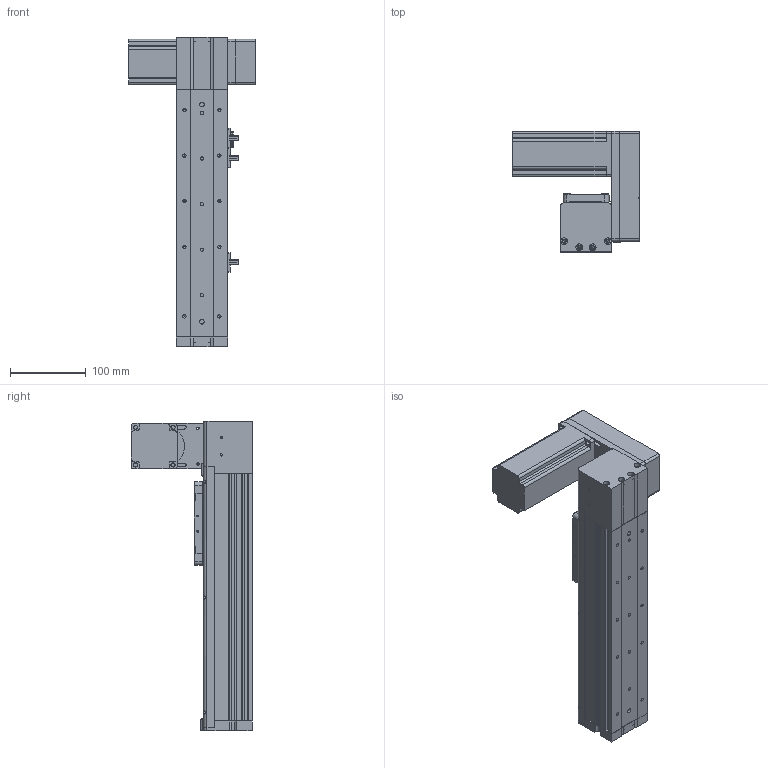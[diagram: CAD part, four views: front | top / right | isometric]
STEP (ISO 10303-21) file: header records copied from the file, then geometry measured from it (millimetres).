
FILE_DESCRIPTION (( 'STEP AP214' ), '1' );
FILE_NAME ('KSD68BS-S150-MLU-CR.STEP', '2019-11-07T07:09:11', ( '微软用户' ), ( '微软中国' ), 'SwSTEP 2.0', 'SolidWorks 2014', '' );
FILE_SCHEMA (( 'AUTOMOTIVE_DESIGN' ));
Length unit declared in the file: millimetre
Products named in the file (14): 感应片68宽全封闭; U倰嫖萇EEㄜSX672; 台达ECMA－C20604AS伺服电机（400W); KSD68BS 150行程底板全封闭; KSD68BS-S150-MLU-CR; 68宽单导轨全封闭丝杆传动安装板1防护罩; KSD68BS 150行程盖板全封闭; KSD68BS 150行程侧板全封闭; 68宽单导轨全封闭同步带端板; 68遵裔啣揤啣1; 68单导轨全封闭同步带电机座左; 68单导轨全封闭同步带安装板; 悵誘欶奻狟殏; 68宽马达安装板连板上折同步带
Assembly tree (17 placements, depth 2):
  KSD68BS-S150-MLU-CR
    KSD68BS 150行程底板全封闭
    台达ECMA－C20604AS伺服电机（400W)
    U倰嫖萇EEㄜSX672  x3
    感应片68宽全封闭
    68宽马达安装板连板上折同步带
    悵誘欶奻狟殏
    68单导轨全封闭同步带安装板
    68单导轨全封闭同步带电机座左
    68宽单导轨全封闭同步带端板
    KSD68BS 150行程侧板全封闭  x2
    68宽单导轨全封闭丝杆传动安装板1防护罩
    68遵裔啣揤啣1  x2
    KSD68BS 150行程盖板全封闭
Bounding box: 167.2 x 159.5 x 408.1 mm (x, y, z)
Volume: 1390905.4 mm3; surface area: 431942.7 mm2
Topology: 18 solids, 18 shells, 1375 faces, 3861 edges, 2484 vertices
Faces by surface type: plane 625, cylinder 618, cone 132
Entity records: 42425 total; most frequent: CARTESIAN_POINT 7175, DIRECTION 6424, ORIENTED_EDGE 6166, EDGE_CURVE 3083, AXIS2_PLACEMENT_3D 2281, VERTEX_POINT 2022, LINE 1862, VECTOR 1862
